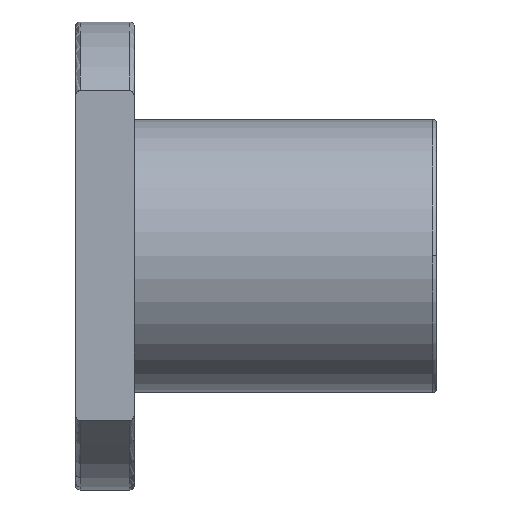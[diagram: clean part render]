
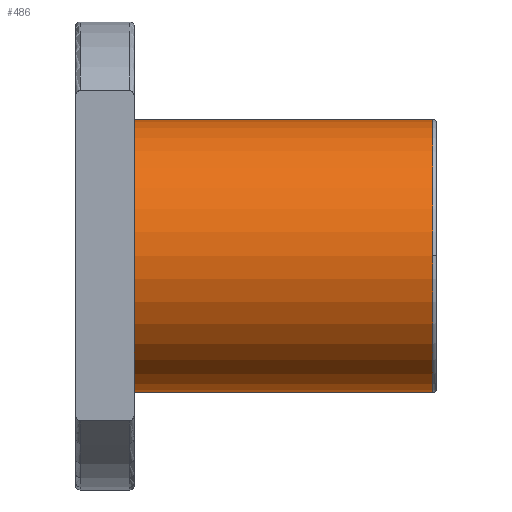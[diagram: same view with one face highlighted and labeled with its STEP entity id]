
A CAD part, top view. The second image highlights one B-rep face of the part: STEP entity #486.
In plain terms, the highlighted cylindrical face has radius 14 mm (diameter 28 mm), a partial arc.
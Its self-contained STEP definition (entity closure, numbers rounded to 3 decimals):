
#335 = TOROIDAL_SURFACE('',#336,13.64,0.36);
#336 = AXIS2_PLACEMENT_3D('',#337,#338,#339);
#337 = CARTESIAN_POINT('',(36.64,0.,0.));
#338 = DIRECTION('',(1.,0.,0.));
#339 = DIRECTION('',(0.,0.,-1.));
#347 = TOROIDAL_SURFACE('',#348,13.64,0.36);
#348 = AXIS2_PLACEMENT_3D('',#349,#350,#351);
#349 = CARTESIAN_POINT('',(36.64,0.,0.));
#350 = DIRECTION('',(1.,0.,0.));
#351 = DIRECTION('',(0.,0.,-1.));
#360 = VERTEX_POINT('',#361);
#361 = CARTESIAN_POINT('',(36.64,14.,0.));
#376 = CYLINDRICAL_SURFACE('',#377,14.);
#377 = AXIS2_PLACEMENT_3D('',#378,#379,#380);
#378 = CARTESIAN_POINT('',(21.32,0.,0.));
#379 = DIRECTION('',(1.,0.,0.));
#380 = DIRECTION('',(-0.,1.,0.));
#388 = EDGE_CURVE('',#360,#389,#391,.T.);
#389 = VERTEX_POINT('',#390);
#390 = CARTESIAN_POINT('',(36.64,0.,14.));
#391 = SURFACE_CURVE('',#392,(#397,#404),.PCURVE_S1.);
#392 = CIRCLE('',#393,14.);
#393 = AXIS2_PLACEMENT_3D('',#394,#395,#396);
#394 = CARTESIAN_POINT('',(36.64,0.,0.));
#395 = DIRECTION('',(1.,0.,0.));
#396 = DIRECTION('',(-0.,1.,0.));
#397 = PCURVE('',#335,#398);
#398 = DEFINITIONAL_REPRESENTATION('',(#399),#403);
#399 = LINE('',#400,#401);
#400 = CARTESIAN_POINT('',(1.571,0.));
#401 = VECTOR('',#402,1.);
#402 = DIRECTION('',(1.,0.));
#403 = ( GEOMETRIC_REPRESENTATION_CONTEXT(2) 
PARAMETRIC_REPRESENTATION_CONTEXT() REPRESENTATION_CONTEXT('2D SPACE',''
  ) );
#404 = PCURVE('',#405,#410);
#405 = CYLINDRICAL_SURFACE('',#406,14.);
#406 = AXIS2_PLACEMENT_3D('',#407,#408,#409);
#407 = CARTESIAN_POINT('',(21.32,0.,0.));
#408 = DIRECTION('',(1.,0.,0.));
#409 = DIRECTION('',(-0.,1.,0.));
#410 = DEFINITIONAL_REPRESENTATION('',(#411),#415);
#411 = LINE('',#412,#413);
#412 = CARTESIAN_POINT('',(0.,15.32));
#413 = VECTOR('',#414,1.);
#414 = DIRECTION('',(1.,0.));
#415 = ( GEOMETRIC_REPRESENTATION_CONTEXT(2) 
PARAMETRIC_REPRESENTATION_CONTEXT() REPRESENTATION_CONTEXT('2D SPACE',''
  ) );
#486 = ADVANCED_FACE('',(#487),#405,.T.);
#487 = FACE_BOUND('',#488,.T.);
#488 = EDGE_LOOP('',(#489,#512,#541,#564,#586));
#489 = ORIENTED_EDGE('',*,*,#490,.F.);
#490 = EDGE_CURVE('',#491,#360,#493,.T.);
#491 = VERTEX_POINT('',#492);
#492 = CARTESIAN_POINT('',(6.,14.,0.));
#493 = SURFACE_CURVE('',#494,(#498,#505),.PCURVE_S1.);
#494 = LINE('',#495,#496);
#495 = CARTESIAN_POINT('',(21.32,14.,0.));
#496 = VECTOR('',#497,1.);
#497 = DIRECTION('',(1.,0.,0.));
#498 = PCURVE('',#405,#499);
#499 = DEFINITIONAL_REPRESENTATION('',(#500),#504);
#500 = LINE('',#501,#502);
#501 = CARTESIAN_POINT('',(0.,0.));
#502 = VECTOR('',#503,1.);
#503 = DIRECTION('',(0.,1.));
#504 = ( GEOMETRIC_REPRESENTATION_CONTEXT(2) 
PARAMETRIC_REPRESENTATION_CONTEXT() REPRESENTATION_CONTEXT('2D SPACE',''
  ) );
#505 = PCURVE('',#376,#506);
#506 = DEFINITIONAL_REPRESENTATION('',(#507),#511);
#507 = LINE('',#508,#509);
#508 = CARTESIAN_POINT('',(6.283,0.));
#509 = VECTOR('',#510,1.);
#510 = DIRECTION('',(0.,1.));
#511 = ( GEOMETRIC_REPRESENTATION_CONTEXT(2) 
PARAMETRIC_REPRESENTATION_CONTEXT() REPRESENTATION_CONTEXT('2D SPACE',''
  ) );
#512 = ORIENTED_EDGE('',*,*,#513,.T.);
#513 = EDGE_CURVE('',#491,#514,#516,.T.);
#514 = VERTEX_POINT('',#515);
#515 = CARTESIAN_POINT('',(6.,-14.,0.));
#516 = SURFACE_CURVE('',#517,(#522,#529),.PCURVE_S1.);
#517 = CIRCLE('',#518,14.);
#518 = AXIS2_PLACEMENT_3D('',#519,#520,#521);
#519 = CARTESIAN_POINT('',(6.,0.,0.));
#520 = DIRECTION('',(1.,0.,0.));
#521 = DIRECTION('',(-0.,1.,0.));
#522 = PCURVE('',#405,#523);
#523 = DEFINITIONAL_REPRESENTATION('',(#524),#528);
#524 = LINE('',#525,#526);
#525 = CARTESIAN_POINT('',(0.,-15.32));
#526 = VECTOR('',#527,1.);
#527 = DIRECTION('',(1.,0.));
#528 = ( GEOMETRIC_REPRESENTATION_CONTEXT(2) 
PARAMETRIC_REPRESENTATION_CONTEXT() REPRESENTATION_CONTEXT('2D SPACE',''
  ) );
#529 = PCURVE('',#530,#535);
#530 = PLANE('',#531);
#531 = AXIS2_PLACEMENT_3D('',#532,#533,#534);
#532 = CARTESIAN_POINT('',(6.,18.76,0.));
#533 = DIRECTION('',(1.,0.,0.));
#534 = DIRECTION('',(0.,1.,0.));
#535 = DEFINITIONAL_REPRESENTATION('',(#536),#540);
#536 = CIRCLE('',#537,14.);
#537 = AXIS2_PLACEMENT_2D('',#538,#539);
#538 = CARTESIAN_POINT('',(-18.76,0.));
#539 = DIRECTION('',(1.,0.));
#540 = ( GEOMETRIC_REPRESENTATION_CONTEXT(2) 
PARAMETRIC_REPRESENTATION_CONTEXT() REPRESENTATION_CONTEXT('2D SPACE',''
  ) );
#541 = ORIENTED_EDGE('',*,*,#542,.F.);
#542 = EDGE_CURVE('',#543,#514,#545,.T.);
#543 = VERTEX_POINT('',#544);
#544 = CARTESIAN_POINT('',(36.64,-14.,0.));
#545 = SURFACE_CURVE('',#546,(#550,#557),.PCURVE_S1.);
#546 = LINE('',#547,#548);
#547 = CARTESIAN_POINT('',(21.32,-14.,0.));
#548 = VECTOR('',#549,1.);
#549 = DIRECTION('',(-1.,-0.,-0.));
#550 = PCURVE('',#405,#551);
#551 = DEFINITIONAL_REPRESENTATION('',(#552),#556);
#552 = LINE('',#553,#554);
#553 = CARTESIAN_POINT('',(3.142,0.));
#554 = VECTOR('',#555,1.);
#555 = DIRECTION('',(0.,-1.));
#556 = ( GEOMETRIC_REPRESENTATION_CONTEXT(2) 
PARAMETRIC_REPRESENTATION_CONTEXT() REPRESENTATION_CONTEXT('2D SPACE',''
  ) );
#557 = PCURVE('',#376,#558);
#558 = DEFINITIONAL_REPRESENTATION('',(#559),#563);
#559 = LINE('',#560,#561);
#560 = CARTESIAN_POINT('',(3.142,0.));
#561 = VECTOR('',#562,1.);
#562 = DIRECTION('',(0.,-1.));
#563 = ( GEOMETRIC_REPRESENTATION_CONTEXT(2) 
PARAMETRIC_REPRESENTATION_CONTEXT() REPRESENTATION_CONTEXT('2D SPACE',''
  ) );
#564 = ORIENTED_EDGE('',*,*,#565,.F.);
#565 = EDGE_CURVE('',#389,#543,#566,.T.);
#566 = SURFACE_CURVE('',#567,(#572,#579),.PCURVE_S1.);
#567 = CIRCLE('',#568,14.);
#568 = AXIS2_PLACEMENT_3D('',#569,#570,#571);
#569 = CARTESIAN_POINT('',(36.64,0.,0.));
#570 = DIRECTION('',(1.,0.,0.));
#571 = DIRECTION('',(-0.,1.,0.));
#572 = PCURVE('',#405,#573);
#573 = DEFINITIONAL_REPRESENTATION('',(#574),#578);
#574 = LINE('',#575,#576);
#575 = CARTESIAN_POINT('',(0.,15.32));
#576 = VECTOR('',#577,1.);
#577 = DIRECTION('',(1.,0.));
#578 = ( GEOMETRIC_REPRESENTATION_CONTEXT(2) 
PARAMETRIC_REPRESENTATION_CONTEXT() REPRESENTATION_CONTEXT('2D SPACE',''
  ) );
#579 = PCURVE('',#347,#580);
#580 = DEFINITIONAL_REPRESENTATION('',(#581),#585);
#581 = LINE('',#582,#583);
#582 = CARTESIAN_POINT('',(1.571,0.));
#583 = VECTOR('',#584,1.);
#584 = DIRECTION('',(1.,0.));
#585 = ( GEOMETRIC_REPRESENTATION_CONTEXT(2) 
PARAMETRIC_REPRESENTATION_CONTEXT() REPRESENTATION_CONTEXT('2D SPACE',''
  ) );
#586 = ORIENTED_EDGE('',*,*,#388,.F.);
